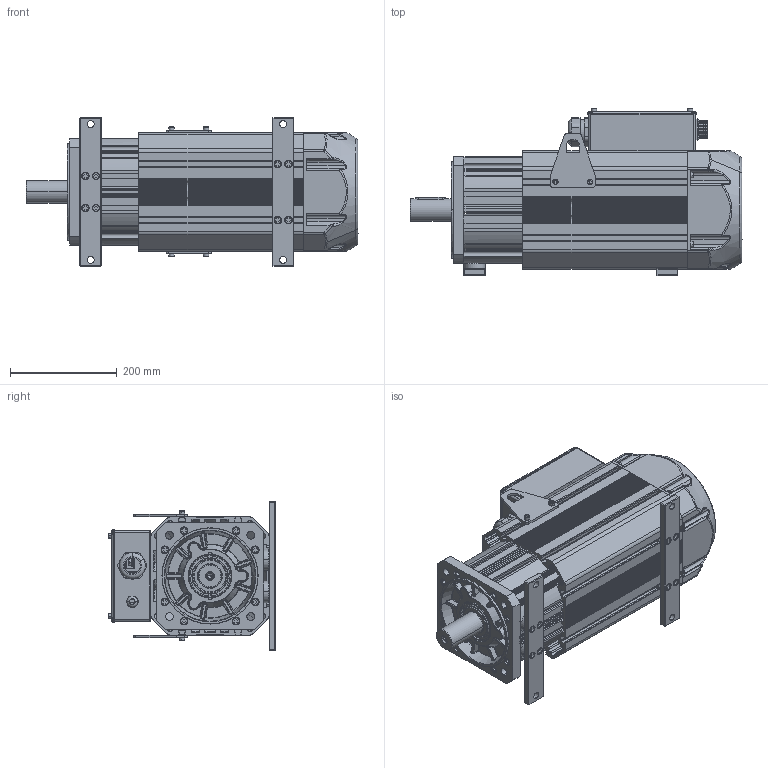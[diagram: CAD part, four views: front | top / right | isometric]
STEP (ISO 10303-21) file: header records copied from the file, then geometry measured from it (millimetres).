
FILE_DESCRIPTION((''),'2;1');
FILE_NAME('180N___SW0001','2025-08-25T09:02:31',('0109502'),(''),'CREO PARAMETRIC BY PTC INC, 2019080','CREO PARAMETRIC BY PTC INC, 2019080','');
FILE_SCHEMA(('CONFIG_CONTROL_DESIGN'));
Products named in the file (1): 180N___SW0001
Bounding box: 621 x 312.5 x 278.25 mm (x, y, z)
Surface area: 1884865.5 mm2 (no closed solid volume)
Topology: 0 solids, 217 shells, 3250 faces, 11436 edges, 8172 vertices
Faces by surface type: plane 1473, cylinder 1127, torus 251, bspline 193, cone 180, sphere 26
Entity records: 136819 total; most frequent: CARTESIAN_POINT 38998, DIRECTION 20787, ORIENTED_EDGE 18500, EDGE_CURVE 11416, VERTEX_POINT 8172, AXIS2_PLACEMENT_3D 7114, VECTOR 6559, LINE 6559
